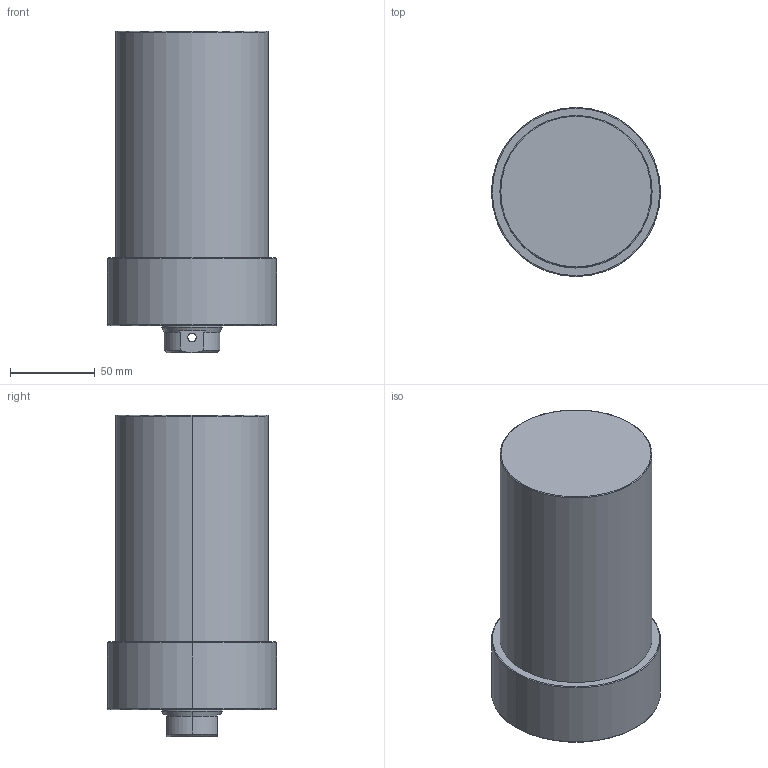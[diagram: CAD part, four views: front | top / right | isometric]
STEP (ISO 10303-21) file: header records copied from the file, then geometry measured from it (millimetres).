
FILE_DESCRIPTION (( 'STEP AP203' ), '1' );
FILE_NAME ('CLLU-090GB-090.STEP', '2020-01-13T05:49:20', ( '' ), ( '' ), 'SwSTEP 2.0', 'SolidWorks 2015', '' );
FILE_SCHEMA (( 'CONFIG_CONTROL_DESIGN' ));
Length unit declared in the file: millimetre
Products named in the file (1): CLLU-090GB-090
Bounding box: 100 x 100 x 190 mm (x, y, z)
Volume: 1160119.4 mm3; surface area: 73487.7 mm2
Topology: 1 solids, 1 shells, 68 faces, 155 edges, 88 vertices
Faces by surface type: cylinder 27, cone 25, plane 10, torus 6
Entity records: 2061 total; most frequent: CARTESIAN_POINT 462, DIRECTION 350, ORIENTED_EDGE 290, AXIS2_PLACEMENT_3D 148, EDGE_CURVE 145, VERTEX_POINT 88, EDGE_LOOP 81, CIRCLE 79
